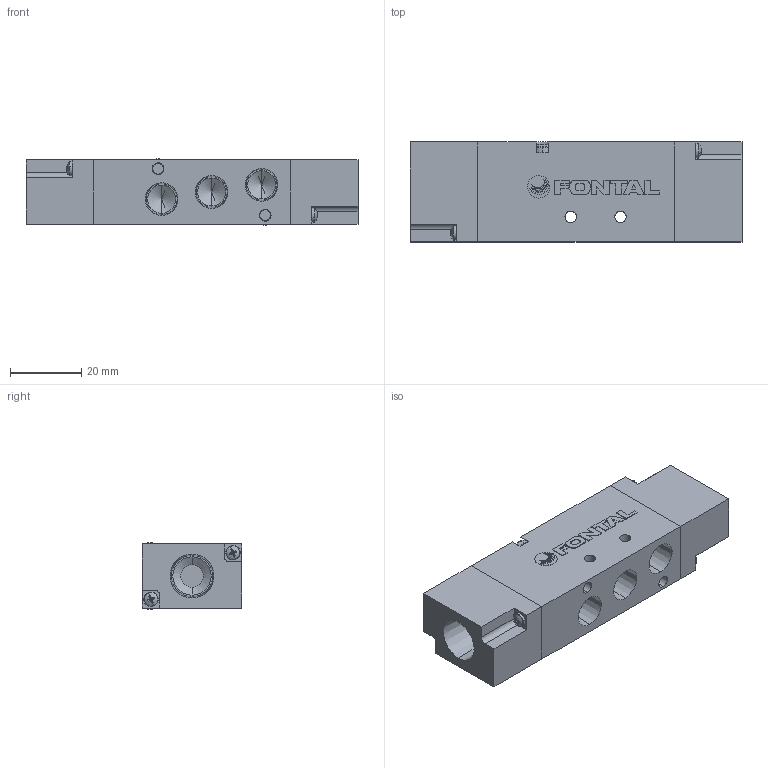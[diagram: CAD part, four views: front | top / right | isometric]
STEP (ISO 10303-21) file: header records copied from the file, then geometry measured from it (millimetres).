
FILE_DESCRIPTION (( 'STEP AP203' ), '1' );
FILE_NAME ('YCD3413-01.STEP', '2016-01-13T18:18:30', ( '' ), ( '' ), 'SwSTEP 2.0', 'SolidWorks 2014', '' );
FILE_SCHEMA (( 'CONFIG_CONTROL_DESIGN' ));
Length unit declared in the file: millimetre
Products named in the file (7): ISO 7045 - M2 x 10; VCS2413-右側; YCD3413-01; PC13-MARK; VCS2413-1; PC13-3-3413-B; ISO 7045 - M3 x 20
Assembly tree (9 placements, depth 3):
  YCD3413-01
    PC13-MARK
    ISO 7045 - M3 x 20  x2
    PC13-3-3413-B
    VCS2413-右側  x2
      VCS2413-1
      ISO 7045 - M2 x 10
Bounding box: 93 x 28 x 18.6 mm (x, y, z)
Volume: 37767.9 mm3; surface area: 16522.9 mm2
Topology: 16 solids, 16 shells, 458 faces, 1117 edges, 687 vertices
Faces by surface type: plane 238, cone 94, cylinder 82, torus 24, sphere 12, bspline 8
Entity records: 8564 total; most frequent: CARTESIAN_POINT 1492, DIRECTION 1359, ORIENTED_EDGE 1262, EDGE_CURVE 631, AXIS2_PLACEMENT_3D 504, VERTEX_POINT 405, VECTOR 351, LINE 351
